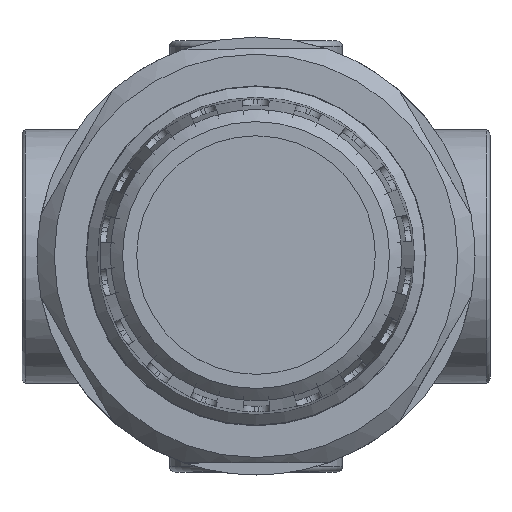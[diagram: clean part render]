
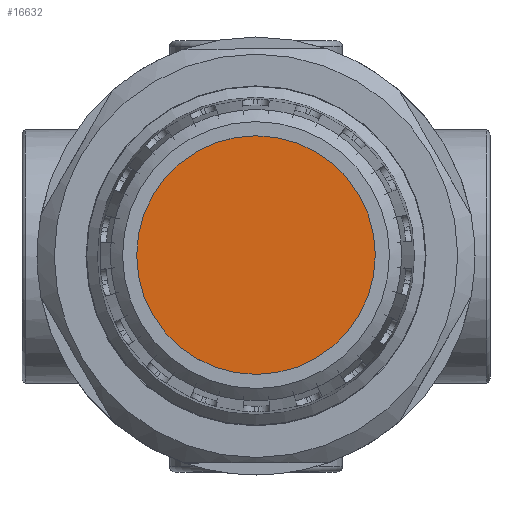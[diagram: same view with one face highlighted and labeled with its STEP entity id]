
A CAD part, top view. The second image highlights one B-rep face of the part: STEP entity #16632.
In plain terms, the highlighted planar face has unit normal (0, 0, 1) as drawn and (0, 1, 0) by its records, which use the part's own axes.
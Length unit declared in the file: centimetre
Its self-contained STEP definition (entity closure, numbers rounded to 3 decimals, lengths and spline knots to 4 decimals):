
#1358=CIRCLE('',#18419,1.035);
#2538=FACE_OUTER_BOUND('',#3512,.T.);
#3512=EDGE_LOOP('',(#15146));
#7789=VERTEX_POINT('',#35051);
#10243=EDGE_CURVE('',#7789,#7789,#1358,.T.);
#15146=ORIENTED_EDGE('',*,*,#10243,.T.);
#15737=PLANE('',#18420);
#16632=ADVANCED_FACE('',(#2538),#15737,.F.);
#18419=AXIS2_PLACEMENT_3D('',#35053,#23109,#23110);
#18420=AXIS2_PLACEMENT_3D('',#35054,#23111,#23112);
#23109=DIRECTION('center_axis',(0.,1.,0.));
#23110=DIRECTION('ref_axis',(-1.,0.,0.));
#23111=DIRECTION('center_axis',(0.,-1.,0.));
#23112=DIRECTION('ref_axis',(0.,0.,-1.));
#35051=CARTESIAN_POINT('',(1.035,8.625,0.));
#35053=CARTESIAN_POINT('Origin',(0.,8.625,0.));
#35054=CARTESIAN_POINT('Origin',(0.,8.625,0.));
